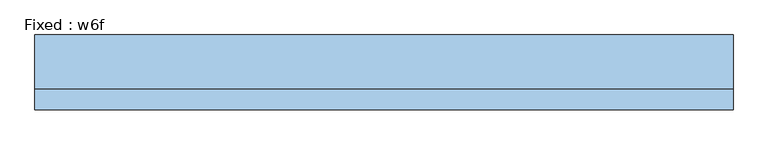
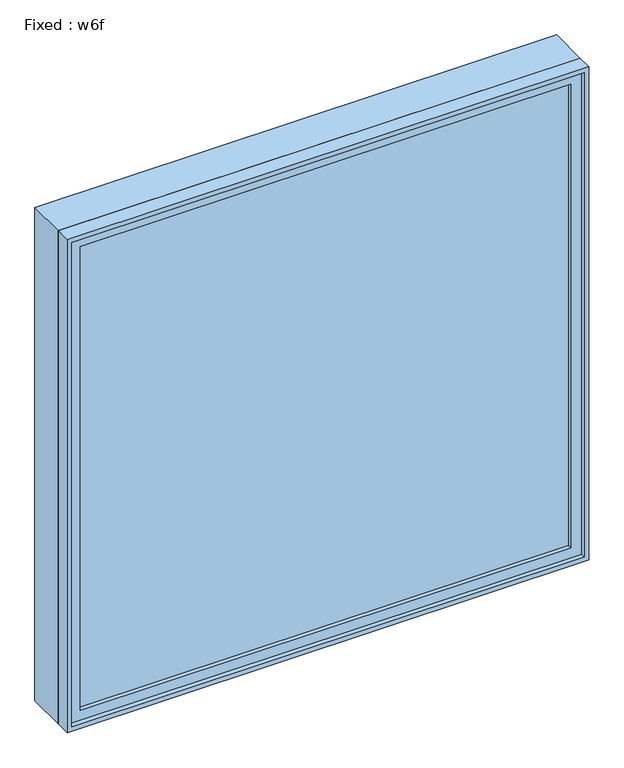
"""IFC4 building model written with IfcOpenShell, lengths in millimetres: window geometry, Fixed : w6f."""

from ifc_helpers import new_model, si_unit, frame, origin, place, context, project, spatial, polyline, outline, extrude, source, transform, mapped, element, save


def fixed_w6f_ce856e14(model_context):
    return source(origin(), model_context, "Body", "SweptSolid", [
        extrude(outline(polyline([(965.2, -66.675), (965.2, -79.375), (-1041.4, -79.375), (-1041.4, -66.675), (965.2, -66.675)])), frame((0.0, 0.0, 977.9), z_axis=(0.0, 0.0, 1.0), x_axis=(1.0, 0.0, 0.0)), (0.0, 0.0, 1.0), 2006.6),
        extrude(outline(polyline([(3028.95, -1085.85), (933.45, -1085.85), (933.45, 1009.65), (3028.95, 1009.65), (3028.95, -1085.85)]), holes=[polyline([(2984.5, -1041.4), (2984.5, 965.2), (977.9, 965.2), (977.9, -1041.4), (2984.5, -1041.4)])]), frame((0.0, -95.25, 0.0), z_axis=(0.0, 1.0, 0.0), x_axis=(0.0, 0.0, 1.0)), (0.0, 0.0, 1.0), 44.45),
        extrude(outline(polyline([(3048.0, -1104.9), (914.4, -1104.9), (914.4, 1028.7), (3048.0, 1028.7), (3048.0, -1104.9)]), holes=[polyline([(3016.25, -1073.15), (3016.25, 996.95), (946.15, 996.95), (946.15, -1073.15), (3016.25, -1073.15)])]), frame((0.0, -50.8, 0.0), z_axis=(0.0, 1.0, 0.0), x_axis=(0.0, 0.0, 1.0)), (0.0, 0.0, 1.0), 165.1),
        extrude(outline(polyline([(3048.0, 1028.7), (3048.0, -1104.9), (914.4, -1104.9), (914.4, 1028.7), (3048.0, 1028.7)]), holes=[polyline([(3028.95, 1009.65), (933.45, 1009.65), (933.45, -1085.85), (3028.95, -1085.85), (3028.95, 1009.65)])]), frame((0.0, -114.3, 0.0), z_axis=(0.0, 1.0, 0.0), x_axis=(0.0, 0.0, 1.0)), (0.0, 0.0, 1.0), 63.5),
    ])


if __name__ == "__main__":
    model = new_model("IFC4")
    model_context = context("Model", 3, world=origin())
    ifc_project = project(units=[si_unit("LENGTHUNIT", "METRE", prefix="MILLI")], contexts=[model_context])
    site = spatial("IfcSite", under=ifc_project)
    building = spatial("IfcBuilding", under=site)
    placement = place(None, origin())
    fixed_w6f_shape = fixed_w6f_ce856e14(model_context)
    element("IfcWindow", 1, ObjectType="Fixed : w6f", at=placement, inside=building, context=model_context, shape_type="MappedRepresentation", body=[
        mapped(fixed_w6f_shape, transform((0.0, 0.0, 0.0), x_axis=(1.0, 0.0, 0.0), y_axis=(0.0, 1.0, 0.0), z_axis=(0.0, 0.0, 1.0))),
    ])
    save(model, "model.ifc")
